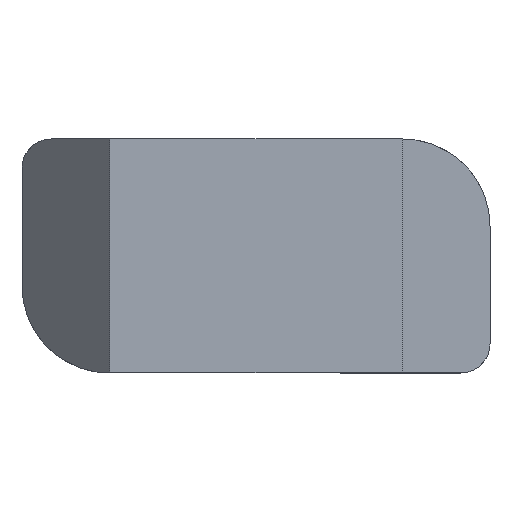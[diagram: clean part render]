
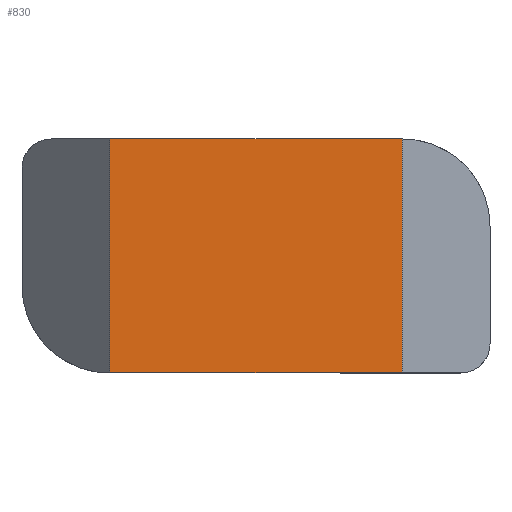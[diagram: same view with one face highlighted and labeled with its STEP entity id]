
A CAD part, front view. The second image highlights one B-rep face of the part: STEP entity #830.
In plain terms, the highlighted planar face has unit normal (0, -1, 0).
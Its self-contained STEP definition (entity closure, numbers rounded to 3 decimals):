
#58 = AXIS2_PLACEMENT_3D ( 'NONE', #2091, #4296, #2041 ) ;
#329 = DIRECTION ( 'NONE',  ( 1., 0., 0. ) ) ;
#563 = DIRECTION ( 'NONE',  ( 0., 0., -1. ) ) ;
#806 = CARTESIAN_POINT ( 'NONE',  ( 5., -6.5, 4. ) ) ;
#830 = ADVANCED_FACE ( 'NONE', ( #1864 ), #956, .F. ) ;
#956 = PLANE ( 'NONE',  #58 ) ;
#1014 = VECTOR ( 'NONE', #3107, 1000. ) ;
#1047 = DIRECTION ( 'NONE',  ( 0., 0., -1. ) ) ;
#1086 = VERTEX_POINT ( 'NONE', #3241 ) ;
#1139 = EDGE_CURVE ( 'NONE', #2499, #3882, #2618, .T. ) ;
#1293 = ORIENTED_EDGE ( 'NONE', *, *, #2418, .T. ) ;
#1411 = VECTOR ( 'NONE', #1047, 1000. ) ;
#1730 = CARTESIAN_POINT ( 'NONE',  ( -5., -6.5, 4. ) ) ;
#1864 = FACE_OUTER_BOUND ( 'NONE', #2571, .T. ) ;
#2041 = DIRECTION ( 'NONE',  ( -1., 0., 0. ) ) ;
#2049 = ORIENTED_EDGE ( 'NONE', *, *, #1139, .F. ) ;
#2091 = CARTESIAN_POINT ( 'NONE',  ( -5., -6.5, 4. ) ) ;
#2269 = VERTEX_POINT ( 'NONE', #3950 ) ;
#2418 = EDGE_CURVE ( 'NONE', #1086, #3882, #3840, .T. ) ;
#2499 = VERTEX_POINT ( 'NONE', #806 ) ;
#2571 = EDGE_LOOP ( 'NONE', ( #1293, #2049, #2666, #4496 ) ) ;
#2618 = LINE ( 'NONE', #3255, #1411 ) ;
#2666 = ORIENTED_EDGE ( 'NONE', *, *, #4317, .F. ) ;
#2834 = LINE ( 'NONE', #1730, #4504 ) ;
#2929 = CARTESIAN_POINT ( 'NONE',  ( 5., -6.5, -4. ) ) ;
#2934 = CARTESIAN_POINT ( 'NONE',  ( -5., -6.5, -4. ) ) ;
#3107 = DIRECTION ( 'NONE',  ( 1., 0., 0. ) ) ;
#3241 = CARTESIAN_POINT ( 'NONE',  ( -5., -6.5, -4. ) ) ;
#3255 = CARTESIAN_POINT ( 'NONE',  ( 5., -6.5, 4. ) ) ;
#3644 = EDGE_CURVE ( 'NONE', #2269, #1086, #2834, .T. ) ;
#3710 = VECTOR ( 'NONE', #329, 1000. ) ;
#3840 = LINE ( 'NONE', #2934, #3710 ) ;
#3882 = VERTEX_POINT ( 'NONE', #2929 ) ;
#3930 = LINE ( 'NONE', #4211, #1014 ) ;
#3950 = CARTESIAN_POINT ( 'NONE',  ( -5., -6.5, 4. ) ) ;
#4211 = CARTESIAN_POINT ( 'NONE',  ( -5., -6.5, 4. ) ) ;
#4296 = DIRECTION ( 'NONE',  ( 0., 1., 0. ) ) ;
#4317 = EDGE_CURVE ( 'NONE', #2269, #2499, #3930, .T. ) ;
#4496 = ORIENTED_EDGE ( 'NONE', *, *, #3644, .T. ) ;
#4504 = VECTOR ( 'NONE', #563, 1000. ) ;
